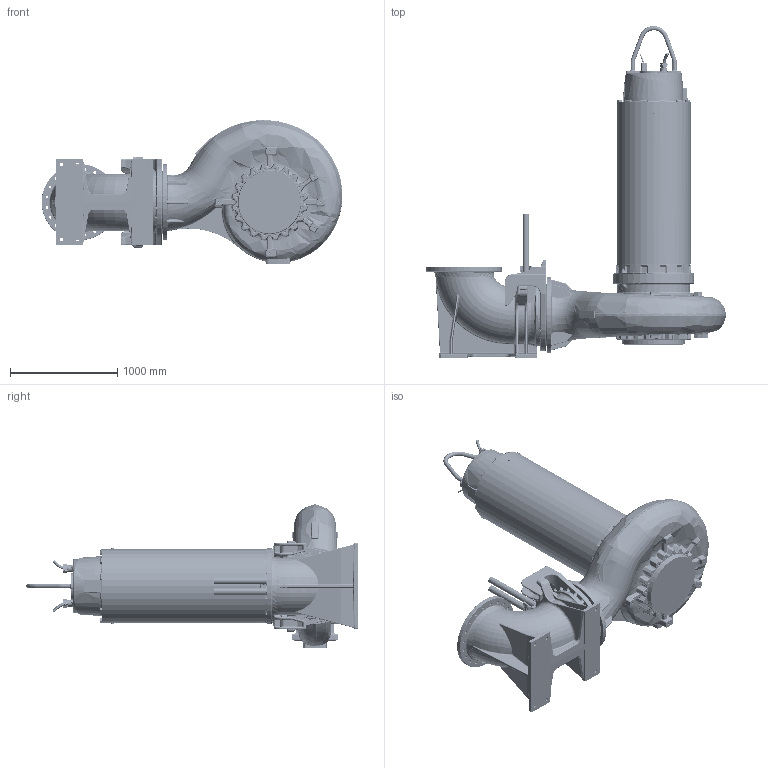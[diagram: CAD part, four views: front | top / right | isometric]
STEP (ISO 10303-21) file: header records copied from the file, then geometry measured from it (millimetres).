
FILE_DESCRIPTION (( 'STEP AP214' ), '1' );
FILE_NAME ('PE7_XFP500U-CH3_WET 2guide_C.STEP', '2017-03-31T08:32:09', ( '' ), ( '' ), 'SwSTEP 2.0', 'SolidWorks 2017', '' );
FILE_SCHEMA (( 'AUTOMOTIVE_DESIGN' ));
Length unit declared in the file: millimetre
Products named in the file (1): PE7_XFP500U-CH3_WET 2guide_C
Bounding box: 2801.98 x 3092.76 x 1338.66 mm (x, y, z)
Volume: 1603488104.1 mm3; surface area: 17857363.7 mm2
Topology: 4 solids, 16 shells, 6304 faces, 15261 edges, 8771 vertices
Faces by surface type: bspline 1817, cylinder 1659, plane 1250, torus 776, cone 516, sphere 286
Entity records: 379854 total; most frequent: CARTESIAN_POINT 178483, ORIENTED_EDGE 29784, DIRECTION 25127, EDGE_CURVE 14892, AXIS2_PLACEMENT_3D 10313, VERTEX_POINT 8766, EDGE_LOOP 6646, UNCERTAINTY_MEASURE_WITH_UNIT 6310
